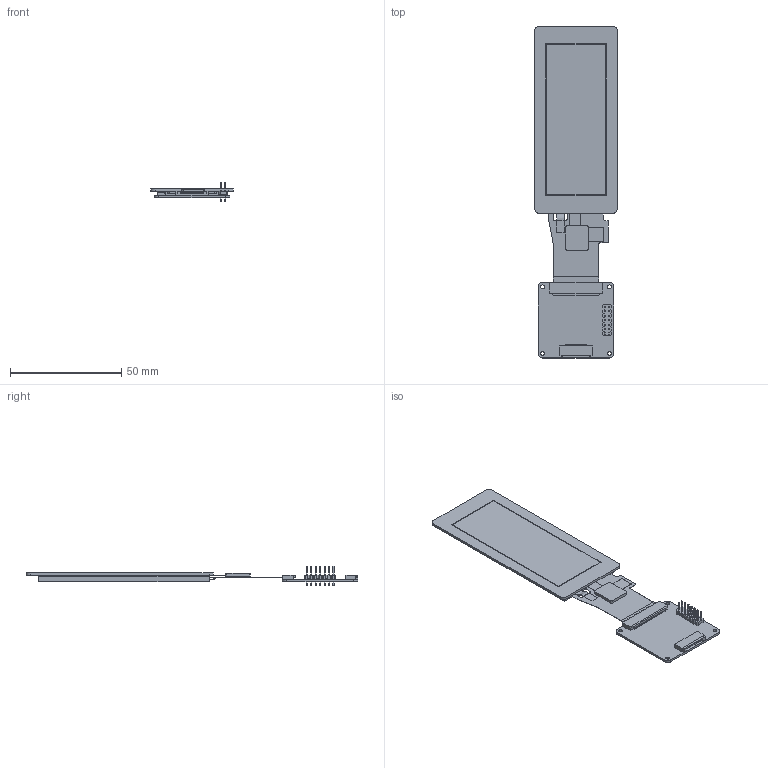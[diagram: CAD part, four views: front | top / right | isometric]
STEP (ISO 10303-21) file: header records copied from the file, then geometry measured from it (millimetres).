
FILE_DESCRIPTION((''),'2;1');
FILE_NAME('TS028FWV02CP-I1440A-V00-241209','2024-12-09T09:24:07',('Shaozi'),(''),'CREO PARAMETRIC BY PTC INC, 2024063','CREO PARAMETRIC BY PTC INC, 2024063','');
FILE_SCHEMA(('AUTOMOTIVE_DESIGN { 1 0 10303 214 1 1 1 1 }'));
Length unit declared in the file: millimetre
Products named in the file (1): TS028FWV02CP-I1440A-V00-241209
Bounding box: 37 x 149.2 x 8.8 mm (x, y, z)
Surface area: 15049.5 mm2 (no closed solid volume)
Topology: 0 solids, 11 shells, 387 faces, 1144 edges, 780 vertices
Faces by surface type: plane 353, cylinder 32, bspline 2
Entity records: 15040 total; most frequent: CARTESIAN_POINT 2479, ORIENTED_EDGE 2106, DIRECTION 1996, EDGE_CURVE 1144, VECTOR 1054, LINE 1054, VERTEX_POINT 780, AXIS2_PLACEMENT_3D 471
